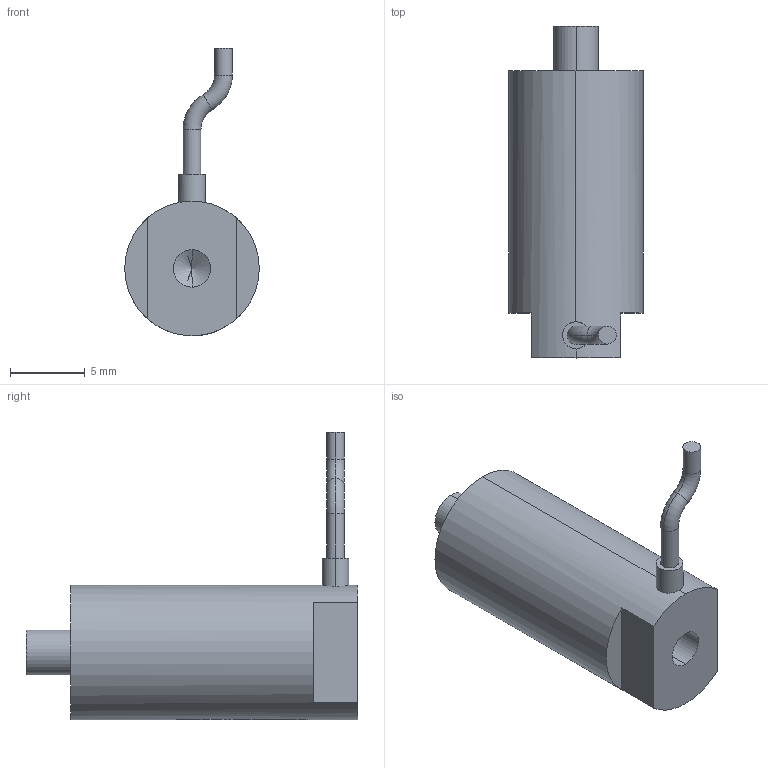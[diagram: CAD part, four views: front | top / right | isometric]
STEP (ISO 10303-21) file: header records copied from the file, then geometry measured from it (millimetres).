
FILE_DESCRIPTION (( 'STEP AP203' ), '1' );
FILE_NAME ('7VS9ﾍﾆｸﾋﾆｽﾍｷ.STEP', '2021-07-07T08:28:14', ( 'ﾎ｢ﾈ橆ﾃｻｧ' ), ( 'ﾎ｢ﾈ晥ｫﾋｾ' ), 'SwSTEP 2.0', 'SolidWorks 2016', '' );
FILE_SCHEMA (( 'CONFIG_CONTROL_DESIGN' ));
Length unit declared in the file: millimetre
Products named in the file (1): 7VS9芢裝す芛
Bounding box: 9 x 22.2 x 19.25 mm (x, y, z)
Volume: 1187.7 mm3; surface area: 783.8 mm2
Topology: 1 solids, 1 shells, 893 faces, 2405 edges, 1599 vertices
Faces by surface type: bspline 495, plane 292, cylinder 100, torus 4, cone 2
Entity records: 41279 total; most frequent: CARTESIAN_POINT 23262, ORIENTED_EDGE 4806, EDGE_CURVE 2403, DIRECTION 1811, B_SPLINE_CURVE_WITH_KNOTS 1634, VERTEX_POINT 1599, EDGE_LOOP 980, FACE_OUTER_BOUND 893
